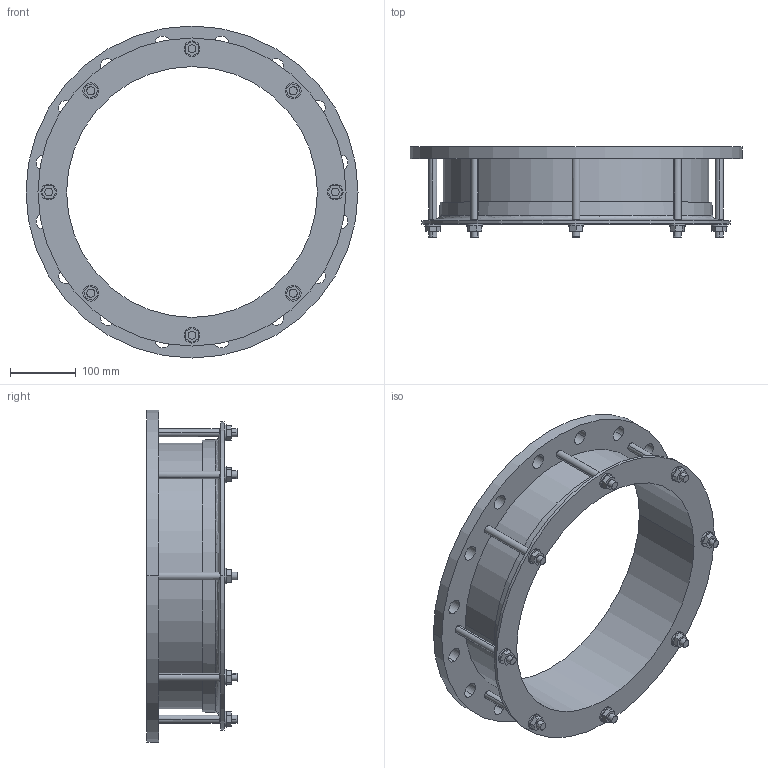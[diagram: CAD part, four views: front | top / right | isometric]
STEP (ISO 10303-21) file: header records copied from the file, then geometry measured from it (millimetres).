
FILE_DESCRIPTION((''),'2;1');
FILE_NAME('378X350PN10','2019-01-16T',('mfairey'),('Glynwed Pipe Systems'),'CREO PARAMETRIC BY PTC INC, 2016130','CREO PARAMETRIC BY PTC INC, 2016130','');
FILE_SCHEMA(('CONFIG_CONTROL_DESIGN'));
Length unit declared in the file: millimetre
Products named in the file (1): 378X350PN10
Bounding box: 505 x 137.45 x 505 mm (x, y, z)
Volume: 3396492.4 mm3; surface area: 592700 mm2
Topology: 1 solids, 1 shells, 170 faces, 446 edges, 296 vertices
Faces by surface type: cylinder 88, plane 76, cone 4, torus 2
Entity records: 5829 total; most frequent: CARTESIAN_POINT 1383, DIRECTION 924, ORIENTED_EDGE 892, EDGE_CURVE 446, AXIS2_PLACEMENT_3D 344, VERTEX_POINT 296, EDGE_LOOP 238, VECTOR 236
